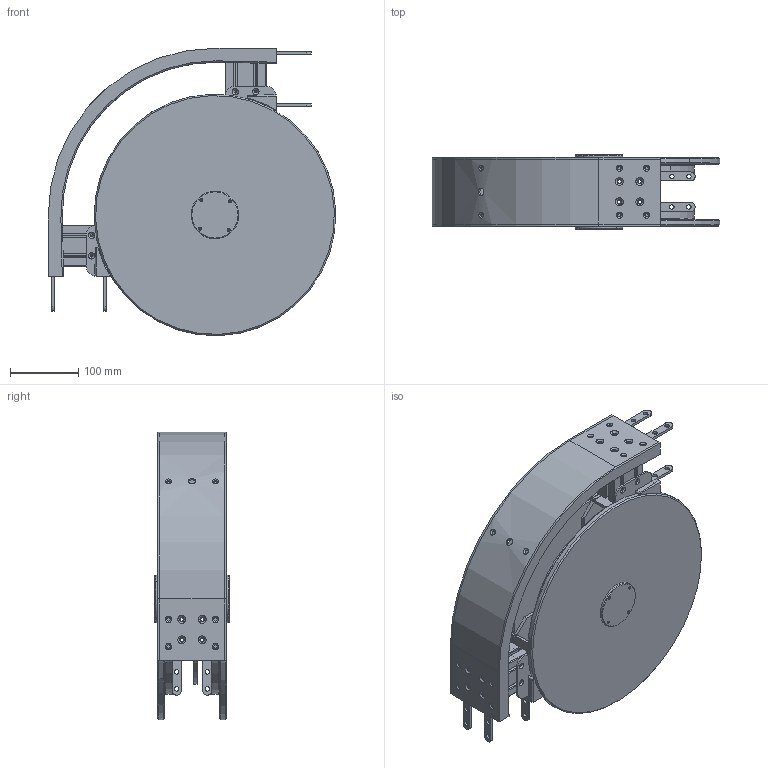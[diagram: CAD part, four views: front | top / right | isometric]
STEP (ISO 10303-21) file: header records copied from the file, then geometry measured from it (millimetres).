
FILE_DESCRIPTION (( 'STEP AP203' ), '1' );
FILE_NAME ('2000.325.590.STEP', '2013-01-24T15:43:08', ( 'Alusic' ), ( 'Alusic' ), 'SwSTEP 2.0', 'SolidWorks 2011', '' );
FILE_SCHEMA (( 'CONFIG_CONTROL_DESIGN' ));
Length unit declared in the file: millimetre
Products named in the file (14): 2000.325.509-1; 2000.325.401; 2000.325.002_Default<A macchina>; 2000.325.402; 2000.325.590; 61805-2RS_16005; 2000.325.510-1; 2000.325.421; 2000.325.411; 2000.325.514; 2000.325.503-1; 2000.325.513-1; 2000.325.502-3; 2000.325.501-2
Assembly tree (27 placements, depth 2):
  2000.325.590
    2000.325.509-1  x2
    2000.325.002_Default<A macchina>  x2
    61805-2RS_16005  x4
    2000.325.401  x4
    2000.325.502-3
    2000.325.503-1  x2
    2000.325.514  x2
    2000.325.402  x2
    2000.325.510-1  x2
    2000.325.411
    2000.325.513-1  x2
    2000.325.421  x2
    2000.325.501-2
Bounding box: 422.44 x 109 x 422.44 mm (x, y, z)
Volume: 4850247.8 mm3; surface area: 1023892.2 mm2
Topology: 27 solids, 27 shells, 1297 faces, 3425 edges, 2210 vertices
Faces by surface type: plane 563, cylinder 530, cone 150, torus 44, bspline 10
Entity records: 24778 total; most frequent: CARTESIAN_POINT 5621, DIRECTION 3771, ORIENTED_EDGE 3490, EDGE_CURVE 1745, AXIS2_PLACEMENT_3D 1373, VERTEX_POINT 1124, VECTOR 1025, LINE 1025
